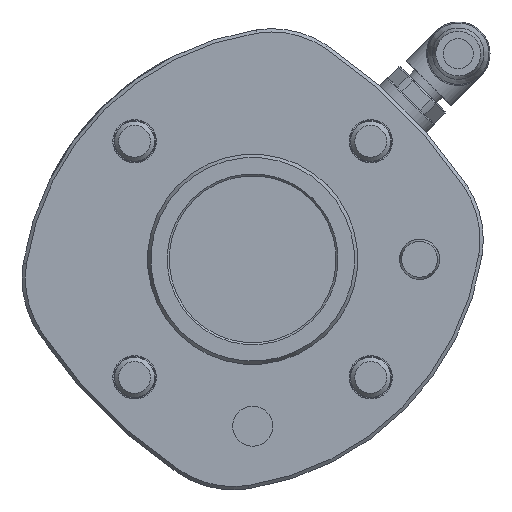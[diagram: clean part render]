
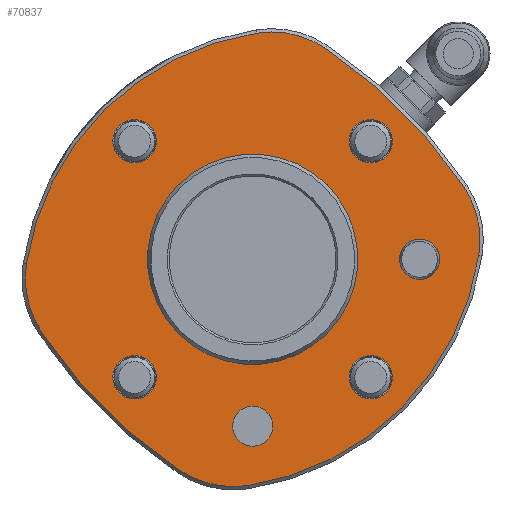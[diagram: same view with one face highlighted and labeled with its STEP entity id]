
A CAD part, front view. The second image highlights one B-rep face of the part: STEP entity #70837.
In plain terms, the highlighted planar face has unit normal (0, -1, 0) as drawn and (0, 0, -1) by its records, which use the part's own axes.
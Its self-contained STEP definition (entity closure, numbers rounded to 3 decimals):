
#70398=CARTESIAN_POINT('',(24.426,23.485,-10.0));
#70399=VERTEX_POINT('',#70398);
#70406=CARTESIAN_POINT('',(-24.426,23.485,-10.0));
#70407=VERTEX_POINT('',#70406);
#70408=CARTESIAN_POINT('',(0.0,-9.725,-10.0));
#70409=DIRECTION('',(0.0,0.0,1.));
#70410=DIRECTION('',(0.593,0.806,0.0));
#70411=AXIS2_PLACEMENT_3D('',#70408,#70409,#70410);
#70412=CIRCLE('',#70411,41.225);
#70413=EDGE_CURVE('',#70399,#70407,#70412,.T.);
#70438=CARTESIAN_POINT('',(-30.054,14.64,-10.0));
#70439=VERTEX_POINT('',#70438);
#70456=CARTESIAN_POINT('',(-15.834,11.804,-10.0));
#70457=DIRECTION('',(0.0,0.0,1.0));
#70458=DIRECTION('',(-0.593,0.806,0.0));
#70459=AXIS2_PLACEMENT_3D('',#70456,#70457,#70458);
#70460=CIRCLE('',#70459,14.5);
#70461=EDGE_CURVE('',#70407,#70439,#70460,.T.);
#70471=CARTESIAN_POINT('',(-30.054,-14.64,-10.0));
#70472=VERTEX_POINT('',#70471);
#70489=CARTESIAN_POINT('',(43.355,0.0,-10.0));
#70490=DIRECTION('',(0.0,0.0,1.));
#70491=DIRECTION('',(-0.981,0.196,0.0));
#70492=AXIS2_PLACEMENT_3D('',#70489,#70490,#70491);
#70493=CIRCLE('',#70492,74.855);
#70494=EDGE_CURVE('',#70439,#70472,#70493,.T.);
#70504=CARTESIAN_POINT('',(-24.426,-23.485,-10.0));
#70505=VERTEX_POINT('',#70504);
#70520=CARTESIAN_POINT('',(-15.834,-11.804,-10.0));
#70521=DIRECTION('',(0.0,0.0,1.));
#70522=DIRECTION('',(-0.981,-0.196,0.0));
#70523=AXIS2_PLACEMENT_3D('',#70520,#70521,#70522);
#70524=CIRCLE('',#70523,14.5);
#70525=EDGE_CURVE('',#70472,#70505,#70524,.T.);
#70535=CARTESIAN_POINT('',(24.426,-23.485,-10.0));
#70536=VERTEX_POINT('',#70535);
#70545=CARTESIAN_POINT('',(0.0,9.725,-10.0));
#70546=DIRECTION('',(0.0,0.0,1.));
#70547=DIRECTION('',(-0.593,-0.806,0.0));
#70548=AXIS2_PLACEMENT_3D('',#70545,#70546,#70547);
#70549=CIRCLE('',#70548,41.225);
#70550=EDGE_CURVE('',#70505,#70536,#70549,.T.);
#70560=CARTESIAN_POINT('',(30.054,-14.64,-10.0));
#70561=VERTEX_POINT('',#70560);
#70578=CARTESIAN_POINT('',(15.834,-11.804,-10.0));
#70579=DIRECTION('',(0.0,0.0,1.));
#70580=DIRECTION('',(0.593,-0.806,0.0));
#70581=AXIS2_PLACEMENT_3D('',#70578,#70579,#70580);
#70582=CIRCLE('',#70581,14.5);
#70583=EDGE_CURVE('',#70536,#70561,#70582,.T.);
#70593=CARTESIAN_POINT('',(30.054,14.64,-10.0));
#70594=VERTEX_POINT('',#70593);
#70611=CARTESIAN_POINT('',(-43.355,0.0,-10.0));
#70612=DIRECTION('',(0.0,0.0,1.));
#70613=DIRECTION('',(0.981,-0.196,0.0));
#70614=AXIS2_PLACEMENT_3D('',#70611,#70612,#70613);
#70615=CIRCLE('',#70614,74.855);
#70616=EDGE_CURVE('',#70561,#70594,#70615,.T.);
#70635=CARTESIAN_POINT('',(15.834,11.804,-10.0));
#70636=DIRECTION('',(0.0,0.0,1.));
#70637=DIRECTION('',(0.981,0.196,0.0));
#70638=AXIS2_PLACEMENT_3D('',#70635,#70636,#70637);
#70639=CIRCLE('',#70638,14.5);
#70640=EDGE_CURVE('',#70594,#70399,#70639,.T.);
#70745=CARTESIAN_POINT('',(0.,0.,-10.0));
#70746=DIRECTION('',(0.0,0.0,1.0));
#70747=DIRECTION('',(1.0,0.0,0.0));
#70748=AXIS2_PLACEMENT_3D('',#70745,#70746,#70747);
#70749=PLANE('',#70748);
#70750=ORIENTED_EDGE('',*,*,#70413,.F.);
#70751=ORIENTED_EDGE('',*,*,#70640,.F.);
#70752=ORIENTED_EDGE('',*,*,#70616,.F.);
#70753=ORIENTED_EDGE('',*,*,#70583,.F.);
#70754=ORIENTED_EDGE('',*,*,#70550,.F.);
#70755=ORIENTED_EDGE('',*,*,#70525,.F.);
#70756=ORIENTED_EDGE('',*,*,#70494,.F.);
#70757=ORIENTED_EDGE('',*,*,#70461,.F.);
#70758=EDGE_LOOP('',(#70750,#70751,#70752,#70753,#70754,#70755,#70756,#70757));
#70759=FACE_OUTER_BOUND('',#70758,.T.);
#70760=CARTESIAN_POINT('',(-3.25,25.0,-10.0));
#70761=VERTEX_POINT('',#70760);
#70762=CARTESIAN_POINT('',(0.0,25.0,-10.0));
#70763=DIRECTION('',(0.0,0.0,1.0));
#70764=DIRECTION('',(1.0,0.0,0.0));
#70765=AXIS2_PLACEMENT_3D('',#70762,#70763,#70764);
#70766=CIRCLE('',#70765,3.25);
#70767=EDGE_CURVE('',#70761,#70761,#70766,.T.);
#70768=ORIENTED_EDGE('',*,*,#70767,.T.);
#70769=EDGE_LOOP('',(#70768));
#70770=FACE_BOUND('',#70769,.T.);
#70771=CARTESIAN_POINT('',(-3.25,-25.0,-10.0));
#70772=VERTEX_POINT('',#70771);
#70773=CARTESIAN_POINT('',(0.0,-25.0,-10.0));
#70774=DIRECTION('',(0.0,0.0,1.0));
#70775=DIRECTION('',(1.0,0.0,0.0));
#70776=AXIS2_PLACEMENT_3D('',#70773,#70774,#70775);
#70777=CIRCLE('',#70776,3.25);
#70778=EDGE_CURVE('',#70772,#70772,#70777,.T.);
#70779=ORIENTED_EDGE('',*,*,#70778,.T.);
#70780=EDGE_LOOP('',(#70779));
#70781=FACE_BOUND('',#70780,.T.);
#70782=CARTESIAN_POINT('',(21.75,0.,-10.0));
#70783=VERTEX_POINT('',#70782);
#70784=CARTESIAN_POINT('',(25.0,0.0,-10.0));
#70785=DIRECTION('',(0.0,0.0,1.0));
#70786=DIRECTION('',(1.0,0.0,0.0));
#70787=AXIS2_PLACEMENT_3D('',#70784,#70785,#70786);
#70788=CIRCLE('',#70787,3.25);
#70789=EDGE_CURVE('',#70783,#70783,#70788,.T.);
#70790=ORIENTED_EDGE('',*,*,#70789,.T.);
#70791=EDGE_LOOP('',(#70790));
#70792=FACE_BOUND('',#70791,.T.);
#70793=CARTESIAN_POINT('',(-28.25,0.,-10.0));
#70794=VERTEX_POINT('',#70793);
#70795=CARTESIAN_POINT('',(-25.0,0.0,-10.0));
#70796=DIRECTION('',(0.0,0.0,1.0));
#70797=DIRECTION('',(1.0,0.0,0.0));
#70798=AXIS2_PLACEMENT_3D('',#70795,#70796,#70797);
#70799=CIRCLE('',#70798,3.25);
#70800=EDGE_CURVE('',#70794,#70794,#70799,.T.);
#70801=ORIENTED_EDGE('',*,*,#70800,.T.);
#70802=EDGE_LOOP('',(#70801));
#70803=FACE_BOUND('',#70802,.T.);
#70804=CARTESIAN_POINT('',(-20.678,17.678,-10.0));
#70805=VERTEX_POINT('',#70804);
#70806=CARTESIAN_POINT('',(-17.678,17.678,-10.0));
#70807=DIRECTION('',(0.0,0.0,1.0));
#70808=DIRECTION('',(-1.0,0.0,0.0));
#70809=AXIS2_PLACEMENT_3D('',#70806,#70807,#70808);
#70810=CIRCLE('',#70809,3.);
#70811=EDGE_CURVE('',#70805,#70805,#70810,.T.);
#70812=ORIENTED_EDGE('',*,*,#70811,.T.);
#70813=EDGE_LOOP('',(#70812));
#70814=FACE_BOUND('',#70813,.T.);
#70815=CARTESIAN_POINT('',(14.678,17.678,-10.0));
#70816=VERTEX_POINT('',#70815);
#70817=CARTESIAN_POINT('',(17.678,17.678,-10.0));
#70818=DIRECTION('',(0.0,0.0,1.0));
#70819=DIRECTION('',(-1.0,0.0,0.0));
#70820=AXIS2_PLACEMENT_3D('',#70817,#70818,#70819);
#70821=CIRCLE('',#70820,3.);
#70822=EDGE_CURVE('',#70816,#70816,#70821,.T.);
#70823=ORIENTED_EDGE('',*,*,#70822,.T.);
#70824=EDGE_LOOP('',(#70823));
#70825=FACE_BOUND('',#70824,.T.);
#70826=CARTESIAN_POINT('',(-15.75,0.,-10.0));
#70827=VERTEX_POINT('',#70826);
#70828=CARTESIAN_POINT('',(0.0,0.0,-10.0));
#70829=DIRECTION('',(0.0,0.0,1.0));
#70830=DIRECTION('',(1.0,0.0,0.0));
#70831=AXIS2_PLACEMENT_3D('',#70828,#70829,#70830);
#70832=CIRCLE('',#70831,15.75);
#70833=EDGE_CURVE('',#70827,#70827,#70832,.T.);
#70834=ORIENTED_EDGE('',*,*,#70833,.T.);
#70835=EDGE_LOOP('',(#70834));
#70836=FACE_BOUND('',#70835,.T.);
#70837=ADVANCED_FACE('',(#70759,#70770,#70781,#70792,#70803,#70814,#70825,#70836),#70749,.F.);
